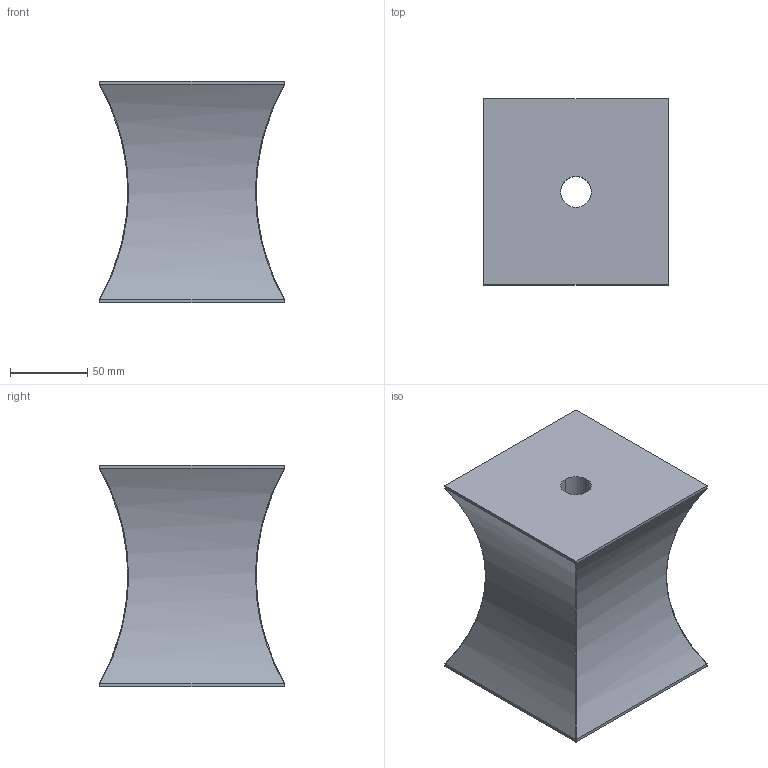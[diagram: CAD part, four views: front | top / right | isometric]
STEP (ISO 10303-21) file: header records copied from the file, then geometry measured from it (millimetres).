
FILE_DESCRIPTION(/* description */ (''),/* implementation_level */ '2;1');
FILE_NAME(/* name */ '3d_qx120-143_06527_r00.stp',/* time_stamp */ '2011-01-10T14:11:39+09:00',/* author */ ('MISUMI'),/* organization */ (''),/* preprocessor_version */ 'ST-DEVELOPER v11',/* originating_system */ 'UGS - NX 5.0',/* authorisation */ '');
FILE_SCHEMA (('CONFIG_CONTROL_DESIGN'));
Length unit declared in the file: millimetre
Products named in the file (1): 3d_qx120-143_06527_r00
Bounding box: 120 x 120 x 143 mm (x, y, z)
Volume: 1283338 mm3; surface area: 94505.7 mm2
Topology: 1 solids, 1 shells, 28 faces, 78 edges, 52 vertices
Faces by surface type: cylinder 14, plane 10, bspline 4
Entity records: 6904 total; most frequent: CARTESIAN_POINT 6155, ORIENTED_EDGE 156, DIRECTION 108, EDGE_CURVE 78, VERTEX_POINT 52, AXIS2_PLACEMENT_3D 37, LINE 34, VECTOR 34
